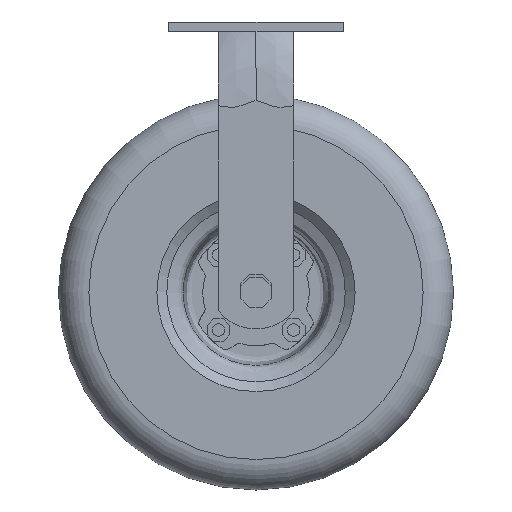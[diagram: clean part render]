
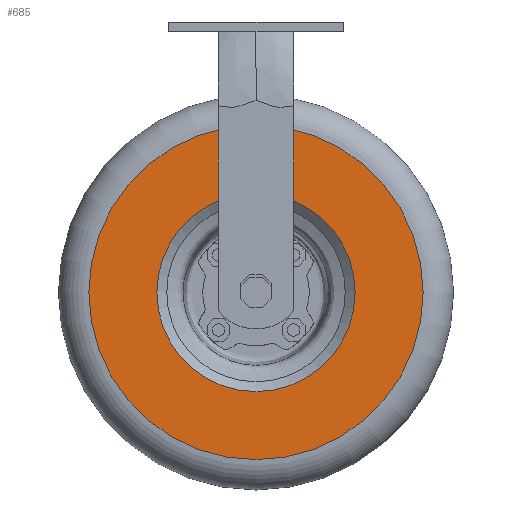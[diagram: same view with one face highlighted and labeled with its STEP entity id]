
A CAD part, left-side view. The second image highlights one B-rep face of the part: STEP entity #685.
In plain terms, the highlighted planar face has unit normal (-1, 0, 0).
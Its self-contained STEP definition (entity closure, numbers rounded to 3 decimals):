
#685=ADVANCED_FACE('',(#1582,#1583),#1003,.T.);
#1003=PLANE('',#6902);
#1471=CIRCLE('',#6892,110.);
#1476=CIRCLE('',#6901,65.25);
#1582=FACE_BOUND('',#1941,.T.);
#1583=FACE_BOUND('',#1942,.T.);
#1941=EDGE_LOOP('',(#3375));
#1942=EDGE_LOOP('',(#3376));
#3375=ORIENTED_EDGE('',*,*,#5282,.T.);
#3376=ORIENTED_EDGE('',*,*,#5287,.T.);
#4440=VERTEX_POINT('',#11580);
#4445=VERTEX_POINT('',#11594);
#5282=EDGE_CURVE('',#4440,#4440,#1471,.T.);
#5287=EDGE_CURVE('',#4445,#4445,#1476,.T.);
#6892=AXIS2_PLACEMENT_3D('',#11579,#7942,#7943);
#6901=AXIS2_PLACEMENT_3D('',#11593,#7960,#7961);
#6902=AXIS2_PLACEMENT_3D('',#11595,#7962,#7963);
#7942=DIRECTION('',(-1.,0.,0.));
#7943=DIRECTION('',(0.,0.,1.));
#7960=DIRECTION('',(1.,0.,0.));
#7961=DIRECTION('',(0.,0.,-1.));
#7962=DIRECTION('',(-1.,0.,0.));
#7963=DIRECTION('',(0.,0.,-1.));
#11579=CARTESIAN_POINT('',(-42.75,0.,-178.));
#11580=CARTESIAN_POINT('',(-42.75,0.,-68.));
#11593=CARTESIAN_POINT('',(-42.75,0.,-178.));
#11594=CARTESIAN_POINT('',(-42.75,0.,-243.25));
#11595=CARTESIAN_POINT('',(-42.75,0.,-178.));
